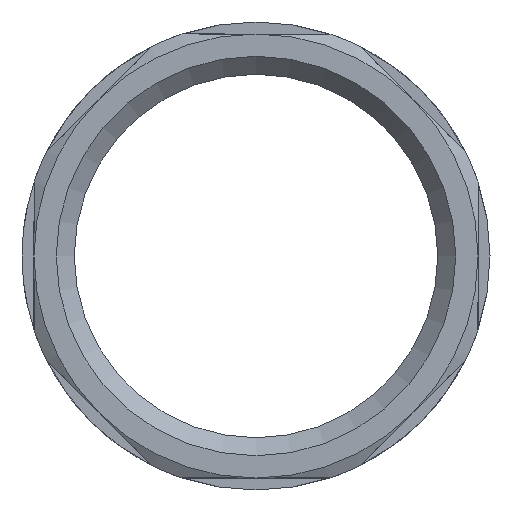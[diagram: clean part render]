
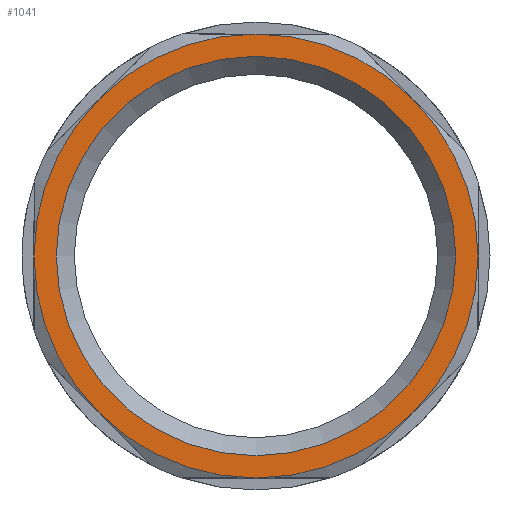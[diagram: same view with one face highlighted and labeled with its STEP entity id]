
A CAD part, left-side view. The second image highlights one B-rep face of the part: STEP entity #1041.
In plain terms, the highlighted planar face has unit normal (-1, 0, 0).
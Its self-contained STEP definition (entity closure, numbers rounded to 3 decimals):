
#167=CARTESIAN_POINT('',(0.,13.081,13.081));
#168=VERTEX_POINT('',#167);
#229=CARTESIAN_POINT('',(0.,18.5,0.));
#230=VERTEX_POINT('',#229);
#291=CARTESIAN_POINT('',(0.,13.081,-13.081));
#292=VERTEX_POINT('',#291);
#353=CARTESIAN_POINT('',(0.,0.,-18.5));
#354=VERTEX_POINT('',#353);
#415=CARTESIAN_POINT('',(0.,-13.081,-13.081));
#416=VERTEX_POINT('',#415);
#461=CARTESIAN_POINT('',(0.,-18.5,0.));
#462=VERTEX_POINT('',#461);
#635=CARTESIAN_POINT('',(0.,-13.081,13.081));
#636=VERTEX_POINT('',#635);
#697=CARTESIAN_POINT('',(0.,0.,18.5));
#698=VERTEX_POINT('',#697);
#712=CARTESIAN_POINT('',(0.,0.,0.0));
#713=DIRECTION('',(1.0,0.0,0.0));
#714=DIRECTION('',(0.0,1.0,0.0));
#715=AXIS2_PLACEMENT_3D('',#712,#713,#714);
#716=CIRCLE('',#715,18.5);
#717=EDGE_CURVE('',#698,#636,#716,.T.);
#736=CARTESIAN_POINT('',(0.,0.,0.0));
#737=DIRECTION('',(1.0,0.0,0.0));
#738=DIRECTION('',(0.0,1.0,0.0));
#739=AXIS2_PLACEMENT_3D('',#736,#737,#738);
#740=CIRCLE('',#739,18.5);
#741=EDGE_CURVE('',#636,#462,#740,.T.);
#760=CARTESIAN_POINT('',(0.,0.,0.0));
#761=DIRECTION('',(1.0,0.0,0.0));
#762=DIRECTION('',(0.0,1.0,0.0));
#763=AXIS2_PLACEMENT_3D('',#760,#761,#762);
#764=CIRCLE('',#763,18.5);
#765=EDGE_CURVE('',#462,#416,#764,.T.);
#784=CARTESIAN_POINT('',(0.,0.,0.0));
#785=DIRECTION('',(1.0,0.0,0.0));
#786=DIRECTION('',(0.0,1.0,0.0));
#787=AXIS2_PLACEMENT_3D('',#784,#785,#786);
#788=CIRCLE('',#787,18.5);
#789=EDGE_CURVE('',#416,#354,#788,.T.);
#808=CARTESIAN_POINT('',(0.,0.,0.0));
#809=DIRECTION('',(1.0,0.0,0.0));
#810=DIRECTION('',(0.0,1.0,0.0));
#811=AXIS2_PLACEMENT_3D('',#808,#809,#810);
#812=CIRCLE('',#811,18.5);
#813=EDGE_CURVE('',#354,#292,#812,.T.);
#832=CARTESIAN_POINT('',(0.,0.,0.0));
#833=DIRECTION('',(1.0,0.0,0.0));
#834=DIRECTION('',(0.0,1.0,0.0));
#835=AXIS2_PLACEMENT_3D('',#832,#833,#834);
#836=CIRCLE('',#835,18.5);
#837=EDGE_CURVE('',#292,#230,#836,.T.);
#856=CARTESIAN_POINT('',(0.,0.,0.0));
#857=DIRECTION('',(1.0,0.0,0.0));
#858=DIRECTION('',(0.0,1.0,0.0));
#859=AXIS2_PLACEMENT_3D('',#856,#857,#858);
#860=CIRCLE('',#859,18.5);
#861=EDGE_CURVE('',#230,#168,#860,.T.);
#872=CARTESIAN_POINT('',(0.,0.,0.0));
#873=DIRECTION('',(1.0,0.0,0.0));
#874=DIRECTION('',(0.0,1.0,0.0));
#875=AXIS2_PLACEMENT_3D('',#872,#873,#874);
#876=CIRCLE('',#875,18.5);
#877=EDGE_CURVE('',#168,#698,#876,.T.);
#1011=CARTESIAN_POINT('',(0.,-16.646,0.));
#1012=VERTEX_POINT('',#1011);
#1013=CARTESIAN_POINT('',(0.,0.,0.0));
#1014=DIRECTION('',(-1.0,0.0,0.0));
#1015=DIRECTION('',(0.0,1.0,0.0));
#1016=AXIS2_PLACEMENT_3D('',#1013,#1014,#1015);
#1017=CIRCLE('',#1016,16.646);
#1018=EDGE_CURVE('',#1012,#1012,#1017,.T.);
#1023=CARTESIAN_POINT('',(0.,9.25,0.0));
#1024=DIRECTION('',(-1.0,0.0,0.0));
#1025=DIRECTION('',(0.0,0.0,1.0));
#1026=AXIS2_PLACEMENT_3D('',#1023,#1024,#1025);
#1027=PLANE('',#1026);
#1028=ORIENTED_EDGE('',*,*,#717,.F.);
#1029=ORIENTED_EDGE('',*,*,#877,.F.);
#1030=ORIENTED_EDGE('',*,*,#861,.F.);
#1031=ORIENTED_EDGE('',*,*,#837,.F.);
#1032=ORIENTED_EDGE('',*,*,#813,.F.);
#1033=ORIENTED_EDGE('',*,*,#789,.F.);
#1034=ORIENTED_EDGE('',*,*,#765,.F.);
#1035=ORIENTED_EDGE('',*,*,#741,.F.);
#1036=EDGE_LOOP('',(#1028,#1029,#1030,#1031,#1032,#1033,#1034,#1035));
#1037=FACE_OUTER_BOUND('',#1036,.T.);
#1038=ORIENTED_EDGE('',*,*,#1018,.F.);
#1039=EDGE_LOOP('',(#1038));
#1040=FACE_BOUND('',#1039,.T.);
#1041=ADVANCED_FACE('',(#1037,#1040),#1027,.T.);
